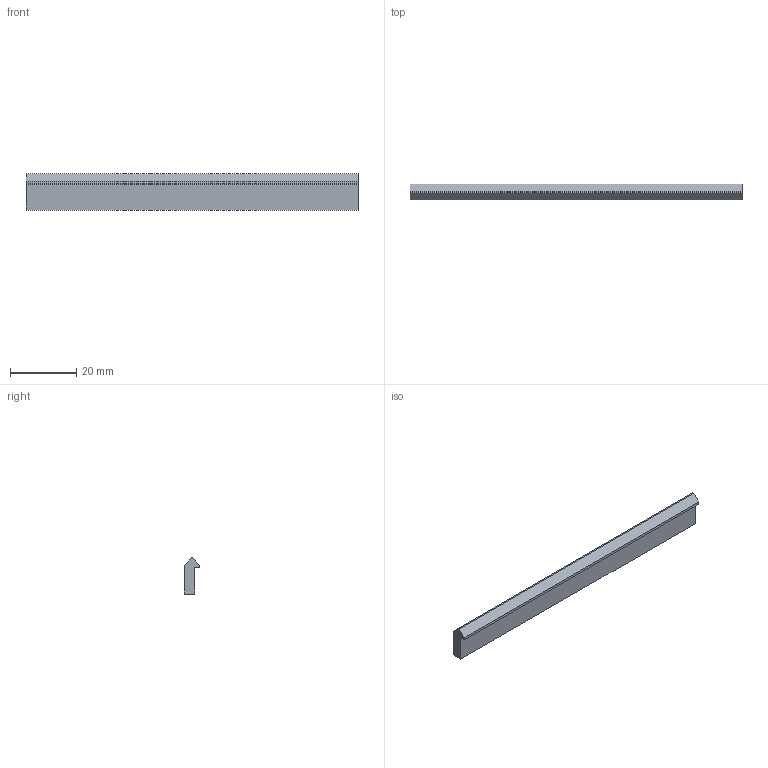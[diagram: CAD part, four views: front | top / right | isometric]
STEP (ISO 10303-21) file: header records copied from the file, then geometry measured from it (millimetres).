
FILE_DESCRIPTION((''),'2;1');
FILE_NAME('C:\Documents and Settings\土屋\My Documents\土屋移動用フォルダ\製品 (図面)\カタログ用3D\リニアガイド\VW\V1.stp','2015-02-21T13:41:28',('y'),(''),'Autodesk Inventor 11','Autodesk Inventor 11','');
FILE_SCHEMA(('AUTOMOTIVE_DESIGN { 1 0 10303 214 1 1 1 1 }'));
Length unit declared in the file: millimetre
Products named in the file (1): V1
Bounding box: 100 x 4.75 x 10.89 mm (x, y, z)
Volume: 3460.3 mm3; surface area: 2932.5 mm2
Topology: 1 solids, 1 shells, 11 faces, 27 edges, 18 vertices
Faces by surface type: plane 10, cylinder 1
Entity records: 346 total; most frequent: CARTESIAN_POINT 57, ORIENTED_EDGE 54, DIRECTION 53, EDGE_CURVE 27, VECTOR 25, LINE 25, VERTEX_POINT 18, AXIS2_PLACEMENT_3D 14
